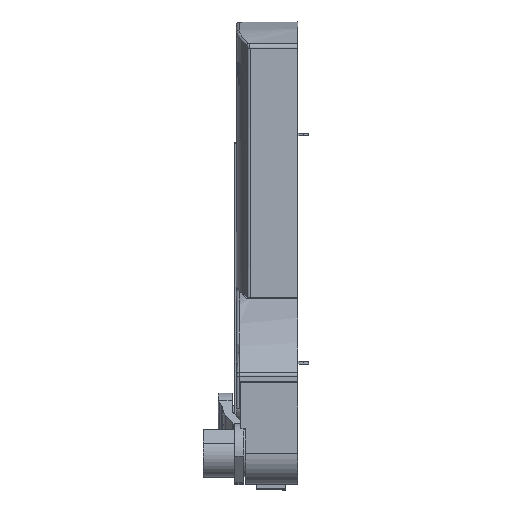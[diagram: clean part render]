
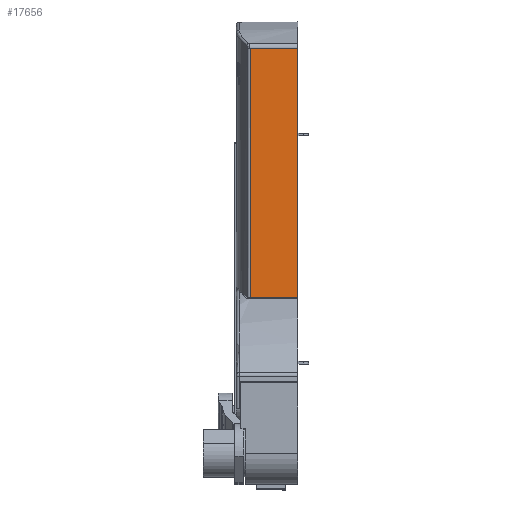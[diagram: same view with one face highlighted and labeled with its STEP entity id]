
A CAD part, top view. The second image highlights one B-rep face of the part: STEP entity #17656.
In plain terms, the highlighted planar face has unit normal (0, 0, 1).
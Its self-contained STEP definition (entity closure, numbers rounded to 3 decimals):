
#3124 = VECTOR ( 'NONE', #3741, 1000. ) ;
#3125 = VECTOR ( 'NONE', #3739, 1000. ) ;
#3126 = VECTOR ( 'NONE', #3743, 1000. ) ;
#3157 = AXIS2_PLACEMENT_3D ( 'NONE', #4188, #4199, #4200 ) ;
#3730 = LINE ( 'NONE', #3740, #3124 ) ;
#3731 = LINE ( 'NONE', #3742, #3126 ) ;
#3736 = LINE ( 'NONE', #3738, #3125 ) ;
#3738 = CARTESIAN_POINT ( 'NONE',  ( -53., 208.25, 24.257 ) ) ;
#3739 = DIRECTION ( 'NONE',  ( 1., 0., 0. ) ) ;
#3740 = CARTESIAN_POINT ( 'NONE',  ( -26.858, 101.957, 24.257 ) ) ;
#3741 = DIRECTION ( 'NONE',  ( 0., 1., 0. ) ) ;
#3742 = CARTESIAN_POINT ( 'NONE',  ( -26.858, 68.229, 24.257 ) ) ;
#3743 = DIRECTION ( 'NONE',  ( -1., 0., 0. ) ) ;
#4188 = CARTESIAN_POINT ( 'NONE',  ( -53., 101.957, 24.257 ) ) ;
#4195 = FACE_OUTER_BOUND ( 'NONE', #16728, .T. ) ;
#4196 = PLANE ( 'NONE',  #3157 ) ;
#4199 = DIRECTION ( 'NONE',  ( 0., 0., -1. ) ) ;
#4200 = DIRECTION ( 'NONE',  ( 1., 0., 0. ) ) ;
#8001 = CARTESIAN_POINT ( 'NONE',  ( -26.858, 208.25, 24.257 ) ) ;
#8004 = CARTESIAN_POINT ( 'NONE',  ( -26.858, 68.229, 24.257 ) ) ;
#9721 = VERTEX_POINT ( 'NONE', #8001 ) ;
#9724 = VERTEX_POINT ( 'NONE', #8004 ) ;
#9982 = VECTOR ( 'NONE', #13920, 1000. ) ;
#13912 = LINE ( 'NONE', #13913, #9982 ) ;
#13913 = CARTESIAN_POINT ( 'NONE',  ( 0., 101.957, 24.257 ) ) ;
#13920 = DIRECTION ( 'NONE',  ( 0., -1., 0. ) ) ;
#16378 = CARTESIAN_POINT ( 'NONE',  ( 0., 208.25, 24.257 ) ) ;
#16387 = CARTESIAN_POINT ( 'NONE',  ( 0., 68.229, 24.257 ) ) ;
#16728 = EDGE_LOOP ( 'NONE', ( #18355, #18356, #18357, #18358 ) ) ;
#17161 = VERTEX_POINT ( 'NONE', #16378 ) ;
#17170 = VERTEX_POINT ( 'NONE', #16387 ) ;
#17577 = EDGE_CURVE ( 'NONE', #9721, #17161, #3736, .T. ) ;
#17578 = EDGE_CURVE ( 'NONE', #9724, #9721, #3730, .T. ) ;
#17579 = EDGE_CURVE ( 'NONE', #17170, #9724, #3731, .T. ) ;
#17656 = ADVANCED_FACE ( 'NONE', ( #4195 ), #4196, .F. ) ;
#18355 = ORIENTED_EDGE ( 'NONE', *, *, #18930, .F. ) ;
#18356 = ORIENTED_EDGE ( 'NONE', *, *, #17577, .F. ) ;
#18357 = ORIENTED_EDGE ( 'NONE', *, *, #17578, .F. ) ;
#18358 = ORIENTED_EDGE ( 'NONE', *, *, #17579, .F. ) ;
#18930 = EDGE_CURVE ( 'NONE', #17161, #17170, #13912, .T. ) ;
